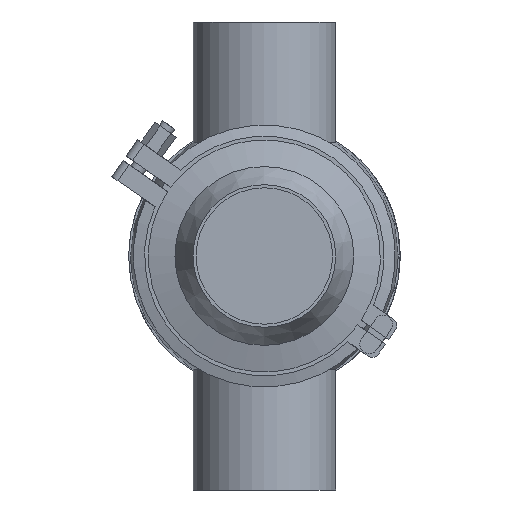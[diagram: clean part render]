
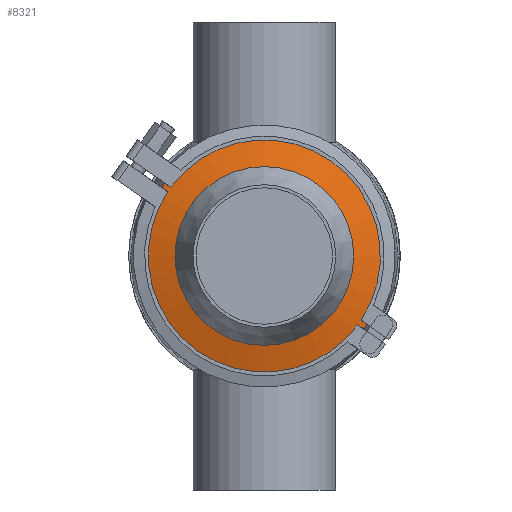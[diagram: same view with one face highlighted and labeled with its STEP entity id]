
A CAD part, front view. The second image highlights one B-rep face of the part: STEP entity #8321.
In plain terms, the highlighted conical face has half-angle 75 degrees and reference radius 66 mm.
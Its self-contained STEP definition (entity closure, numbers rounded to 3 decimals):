
#757 = EDGE_CURVE ( 'NONE', #8989, #8989, #1325, .T. ) ;
#1325 = CIRCLE ( 'NONE', #7995, 66. ) ;
#1463 = CONICAL_SURFACE ( 'NONE', #8131, 66., 1.309 ) ;
#2410 = FACE_OUTER_BOUND ( 'NONE', #3505, .T. ) ;
#3505 = EDGE_LOOP ( 'NONE', ( #4083 ) ) ;
#4083 = ORIENTED_EDGE ( 'NONE', *, *, #757, .F. ) ;
#4656 = DIRECTION ( 'NONE',  ( 0., 0., 1. ) ) ;
#5720 = VERTEX_POINT ( 'NONE', #16820 ) ;
#7995 = AXIS2_PLACEMENT_3D ( 'NONE', #9500, #20477, #20679 ) ;
#8131 = AXIS2_PLACEMENT_3D ( 'NONE', #15154, #13568, #8992 ) ;
#8321 = ADVANCED_FACE ( 'NONE', ( #16926, #2410 ), #1463, .T. ) ;
#8541 = ORIENTED_EDGE ( 'NONE', *, *, #10630, .T. ) ;
#8989 = VERTEX_POINT ( 'NONE', #10368 ) ;
#8992 = DIRECTION ( 'NONE',  ( 0., 0., 1. ) ) ;
#9500 = CARTESIAN_POINT ( 'NONE',  ( 0., 5.5, 0. ) ) ;
#10368 = CARTESIAN_POINT ( 'NONE',  ( 0., 5.5, 66. ) ) ;
#10630 = EDGE_CURVE ( 'NONE', #5720, #5720, #14261, .T. ) ;
#10942 = DIRECTION ( 'NONE',  ( 0., 1., 0. ) ) ;
#13227 = EDGE_LOOP ( 'NONE', ( #8541 ) ) ;
#13568 = DIRECTION ( 'NONE',  ( 0., 1., 0. ) ) ;
#14261 = CIRCLE ( 'NONE', #17922, 47.759 ) ;
#15154 = CARTESIAN_POINT ( 'NONE',  ( 0., 5.5, 0. ) ) ;
#16820 = CARTESIAN_POINT ( 'NONE',  ( 0., 0.612, 47.759 ) ) ;
#16926 = FACE_BOUND ( 'NONE', #13227, .T. ) ;
#17922 = AXIS2_PLACEMENT_3D ( 'NONE', #18855, #10942, #4656 ) ;
#18855 = CARTESIAN_POINT ( 'NONE',  ( 0., 0.612, 0. ) ) ;
#20477 = DIRECTION ( 'NONE',  ( 0., 1., 0. ) ) ;
#20679 = DIRECTION ( 'NONE',  ( 0., 0., 1. ) ) ;
